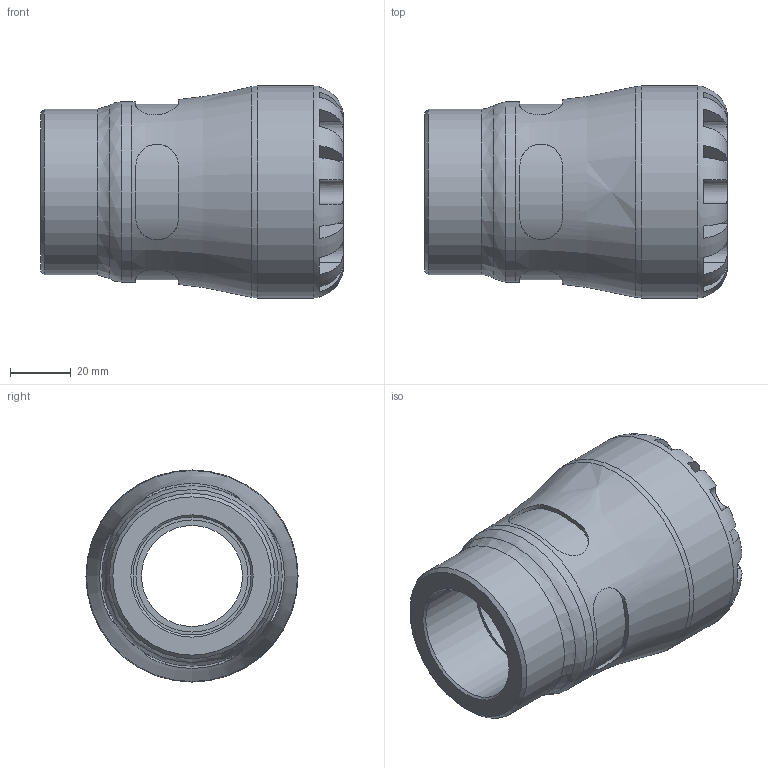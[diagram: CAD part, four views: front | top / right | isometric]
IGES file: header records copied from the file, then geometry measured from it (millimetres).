
Global section: file name: 100300040013_190300040013.ipt; native system: Autodesk Inventor 2015; preprocessor: unknown; author: KIM; date: 20170122.094952; units: millimetre
Bounding box: 100 x 70 x 70 mm (x, y, z)
Volume: 179810.4 mm3; surface area: 37844.2 mm2
Topology: 1 solids, 1 shells, 104 faces, 270 edges, 174 vertices
Faces by surface type: plane 61, revolution 27, cylinder 15, cone 1
Full cylindrical faces by diameter (mm): 54.6 x1, 59.5 x1, 70 x1
